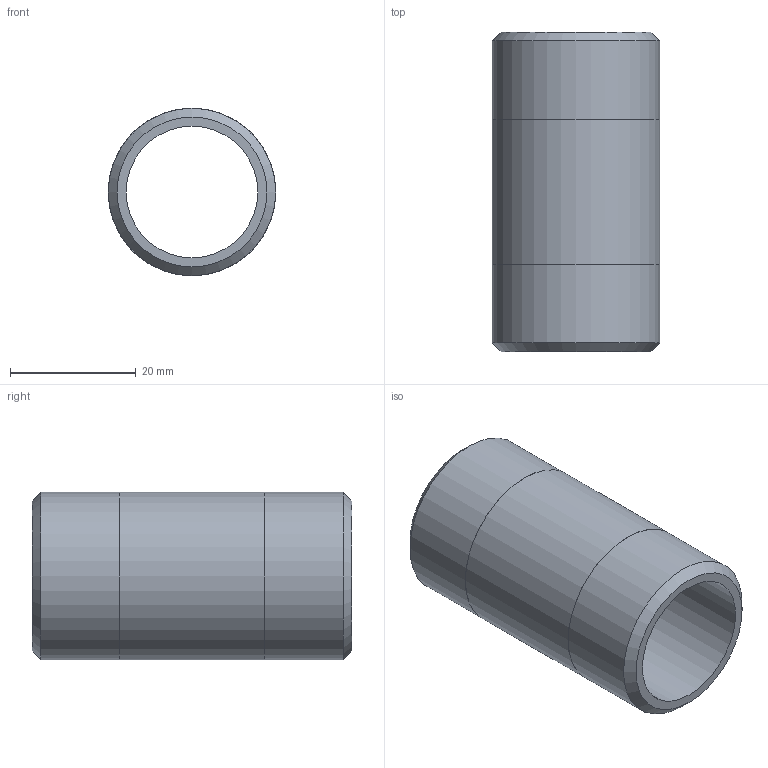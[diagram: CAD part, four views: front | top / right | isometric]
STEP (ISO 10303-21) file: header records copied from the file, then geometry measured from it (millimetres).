
FILE_DESCRIPTION(/* description */ (''),/* implementation_level */ '2;1');
FILE_NAME(/* name */ 'C:/Users/drich/Desktop/BPN34-2 v1.step',/* time_stamp */ '2020-01-03T15:17:05-06:00',/* author */ (''),/* organization */ (''),/* preprocessor_version */ 'ST-DEVELOPER v18',/* originating_system */ 'Autodesk Translation Framework v8.12.0.6',/* authorisation */ '');
FILE_SCHEMA (('AUTOMOTIVE_DESIGN { 1 0 10303 214 3 1 1 }'));
Length unit declared in the file: inch
Products named in the file (1): BPN34-2
Bounding box: 26.67 x 50.8 x 26.67 mm (x, y, z)
Volume: 10685.5 mm3; surface area: 7879.4 mm2
Topology: 1 solids, 1 shells, 10 faces, 24 edges, 18 vertices
Faces by surface type: cylinder 4, plane 4, cone 2
Full cylindrical faces by diameter (mm): 20.93 x1, 26.619 x2, 26.67 x1
Entity records: 360 total; most frequent: DIRECTION 64, CARTESIAN_POINT 53, ORIENTED_EDGE 48, AXIS2_PLACEMENT_3D 29, EDGE_CURVE 24, CIRCLE 18, VERTEX_POINT 18, EDGE_LOOP 14
